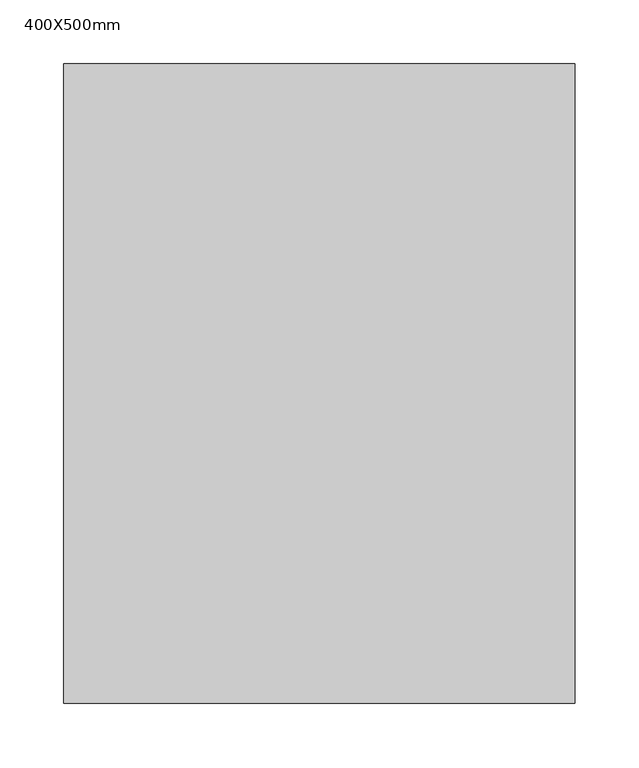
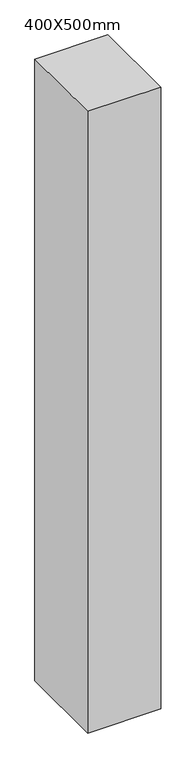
"""IFC4 building model written with IfcOpenShell, lengths in millimetres: column geometry, 混凝土 - 矩形 - 柱 : 400X500mm."""

from ifc_helpers import new_model, si_unit, frame, origin, place, context, project, spatial, polyline, outline, extrude, source, transform, mapped, element, save


def column_400x500mm_a61c753e(model_context):
    return source(origin(), model_context, "Body", "SweptSolid", [
        extrude(outline(polyline([(200.0, 250.0), (200.0, -250.0), (-200.0, -250.0), (-200.0, 250.0), (200.0, 250.0)])), frame((0.0, 0.0, 3600.0), z_axis=(0.0, 0.0, 1.0), x_axis=(1.0, 0.0, 0.0)), (0.0, 0.0, 1.0), 3600.0),
    ])


if __name__ == "__main__":
    model = new_model("IFC4")
    model_context = context("Model", 3, world=origin())
    ifc_project = project(units=[si_unit("LENGTHUNIT", "METRE", prefix="MILLI")], contexts=[model_context])
    site = spatial("IfcSite", under=ifc_project)
    building = spatial("IfcBuilding", under=site)
    placement = place(None, origin())
    column_400x500mm_shape = column_400x500mm_a61c753e(model_context)
    element("IfcColumn", 1, ObjectType="混凝土 - 矩形 - 柱 : 400X500mm", at=placement, inside=building, context=model_context, shape_type="MappedRepresentation", body=[
        mapped(column_400x500mm_shape, transform((0.0, 0.0, 0.0), x_axis=(1.0, 0.0, 0.0), y_axis=(0.0, 1.0, 0.0), z_axis=(0.0, 0.0, 1.0))),
    ])
    save(model, "model.ifc")
